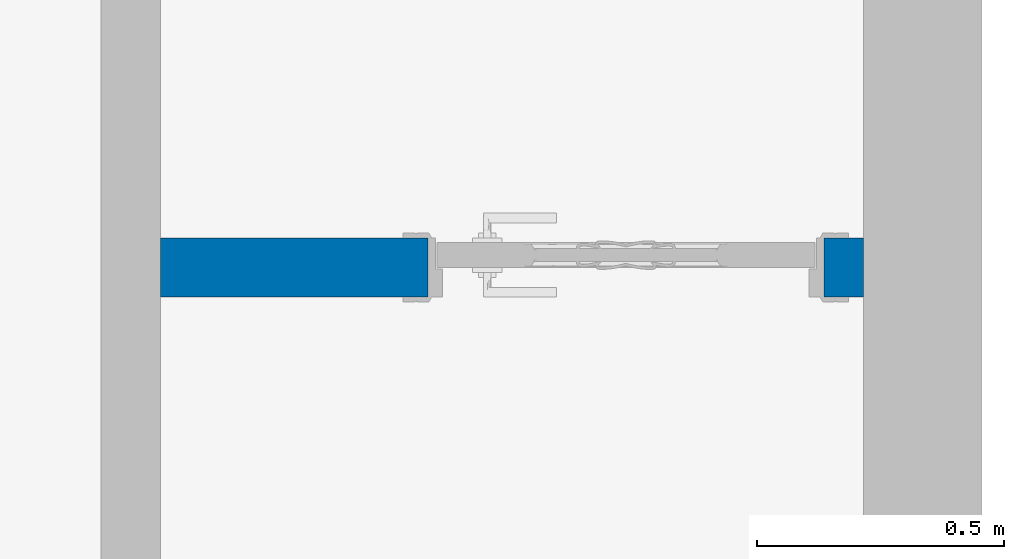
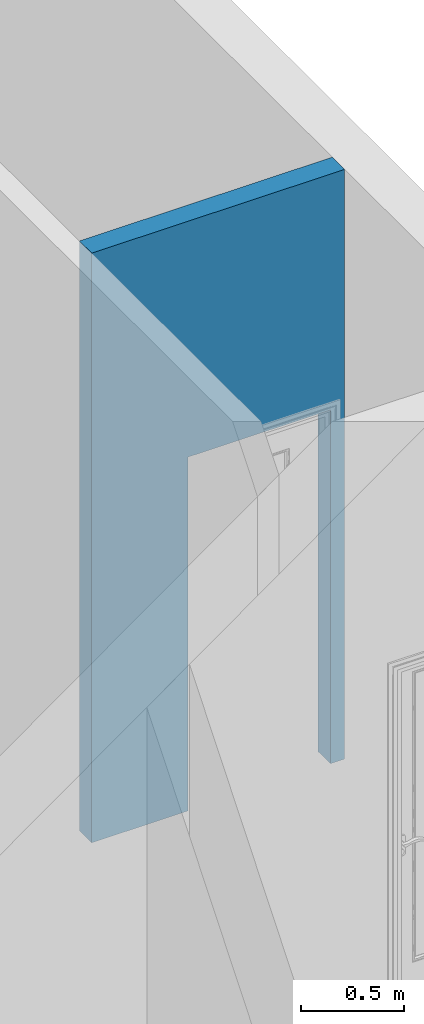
# One storey, part 13 of 24: 1 wall, 1 opening.
"""IFC2X3 building model written with IfcOpenShell, lengths in millimetres."""

from ifc_helpers import new_model, entity, si_unit, converted_unit, derived_unit, direction, frame, frame_2d, origin, place, context, subcontext, project, spatial, rectangle, extrude, material, layer, layer_set, layer_usage, type_object, element, save


model = new_model("IFC2X3")

# Units and contexts
model_context = context("Model", 3, precision=0.01, world=origin(), true_north=direction((6.12303176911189e-17, 1.0)))
body_context = subcontext(model_context, "Body", "Model", "MODEL_VIEW")
ifc_project = project(units=[si_unit("LENGTHUNIT", "METRE", prefix="MILLI"), si_unit("AREAUNIT", "SQUARE_METRE"), si_unit("VOLUMEUNIT", "CUBIC_METRE"), converted_unit("PLANEANGLEUNIT", "DEGREE", entity("IfcRatioMeasure", 0.0174532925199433), si_unit("PLANEANGLEUNIT", "RADIAN"), dimensions=[0, 0, 0, 0, 0, 0, 0]), si_unit("MASSUNIT", "GRAM", prefix="KILO"), derived_unit("MASSDENSITYUNIT", [(si_unit("MASSUNIT", "GRAM", prefix="KILO"), 1), (si_unit("LENGTHUNIT", "METRE"), -3)]), si_unit("TIMEUNIT", "SECOND"), si_unit("FREQUENCYUNIT", "HERTZ"), si_unit("THERMODYNAMICTEMPERATUREUNIT", "DEGREE_CELSIUS"), derived_unit("THERMALTRANSMITTANCEUNIT", [(si_unit("MASSUNIT", "GRAM", prefix="KILO"), 1), (si_unit("THERMODYNAMICTEMPERATUREUNIT", "KELVIN"), -1), (si_unit("TIMEUNIT", "SECOND"), -3)]), derived_unit("VOLUMETRICFLOWRATEUNIT", [(si_unit("LENGTHUNIT", "METRE"), 3), (si_unit("TIMEUNIT", "SECOND"), -1)]), si_unit("ELECTRICCURRENTUNIT", "AMPERE"), si_unit("ELECTRICVOLTAGEUNIT", "VOLT"), si_unit("POWERUNIT", "WATT"), si_unit("FORCEUNIT", "NEWTON", prefix="KILO"), si_unit("ILLUMINANCEUNIT", "LUX"), si_unit("LUMINOUSFLUXUNIT", "LUMEN"), si_unit("LUMINOUSINTENSITYUNIT", "CANDELA"), derived_unit("USERDEFINED", [(si_unit("MASSUNIT", "GRAM", prefix="KILO"), -1), (si_unit("LENGTHUNIT", "METRE"), -2), (si_unit("TIMEUNIT", "SECOND"), 3), (si_unit("LUMINOUSFLUXUNIT", "LUMEN"), 1)]), derived_unit("LINEARVELOCITYUNIT", [(si_unit("LENGTHUNIT", "METRE"), 1), (si_unit("TIMEUNIT", "SECOND"), -1)]), si_unit("PRESSUREUNIT", "PASCAL"), derived_unit("USERDEFINED", [(si_unit("LENGTHUNIT", "METRE"), -2), (si_unit("MASSUNIT", "GRAM", prefix="KILO"), 1), (si_unit("TIMEUNIT", "SECOND"), -2)])], contexts=[model_context])

# Site, building, storey
site_placement = place(None, origin())
site = spatial("IfcSite", under=ifc_project, at=site_placement, Name="表面", CompositionType="ELEMENT")
building_placement = place(site_placement, origin())
building = spatial("IfcBuilding", under=site, at=building_placement, CompositionType="ELEMENT")
storey_placement = place(building_placement, frame((0.0, 0.0, -3500.0)))
storey = spatial("IfcBuildingStorey", under=building, at=storey_placement, Name="-1F", CompositionType="ELEMENT", Elevation=-3500.0)

# Wall, opening
ifc_material_1 = material(Name="白色涂料")
ifc_layer_1 = layer(ifc_material_1, 10.0)
ifc_material_2 = material(Name="默认墙")
ifc_layer_2 = layer(ifc_material_2, 100.0)
ifc_layer_3 = layer(ifc_material_1, 10.0)
ifc_layer_set = layer_set([ifc_layer_1, ifc_layer_2, ifc_layer_3], Name="基本墙:粉刷墙120")
ifc_layer_usage = layer_usage(ifc_layer_set, "AXIS2", "NEGATIVE", 60.0)
wall_type = type_object("IfcWallType", Name="基本墙:粉刷墙120", PredefinedType="STANDARD", material=ifc_layer_set)
wall_placement = place(storey_placement, frame((9229.75008735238, -6707.84591297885, 0.0)))
wall = element("IfcWallStandardCase", 1, at=wall_placement, inside=storey, type_object=wall_type, material=ifc_layer_usage, Name="基本墙:粉刷墙120", ObjectType="基本墙:粉刷墙120", context=body_context, shape_type="SweptSolid", body=[
    extrude(rectangle(XDim=1420.0, YDim=120.000000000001, at=frame_2d((710.0, -3.05533376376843e-13), x_axis=(-1.0, 0.0))), origin(), (0.0, 0.0, 1.0), 3500.0),
])
opening_placement = place(wall_placement, frame((540.0, -60.0, 0.0)))
element("IfcOpeningElement", 2, at=opening_placement, cuts=wall, Name="装饰木门:M0821:1", ObjectType="Opening", context=body_context, shape_type="SweptSolid", body=[
    extrude(rectangle(XDim=2099.99999999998, YDim=800.0, at=frame_2d((1049.99999999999, 400.0), x_axis=(1.0, 0.0))), frame((0.0, 0.0, 0.0), z_axis=(0.0, 1.0, 0.0), x_axis=(0.0, 0.0, 1.0)), (0.0, 0.0, 1.0), 120.0),
])

save(model, "model.ifc")
